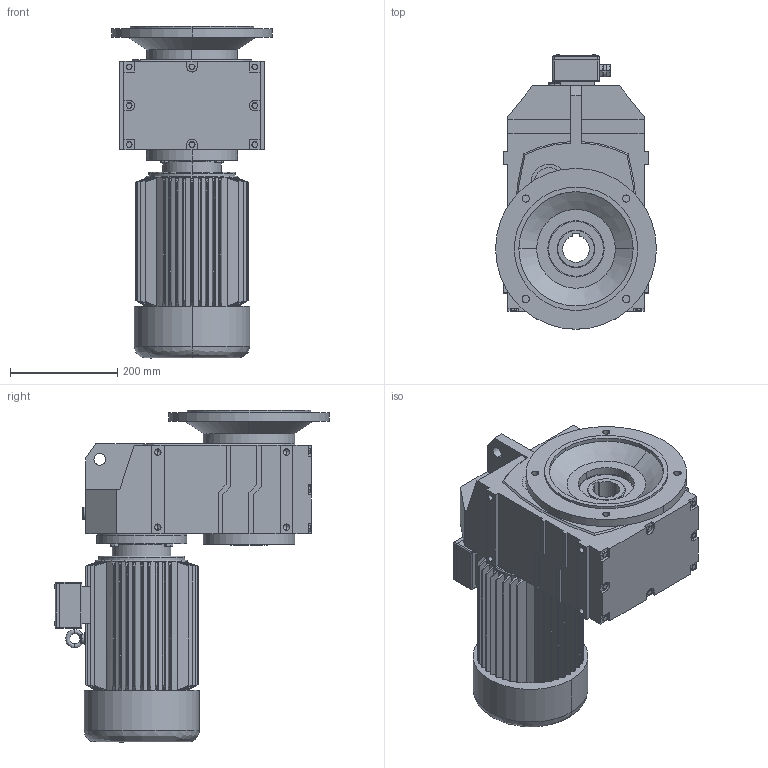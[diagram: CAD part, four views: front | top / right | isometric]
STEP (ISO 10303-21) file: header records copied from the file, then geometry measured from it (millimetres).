
FILE_DESCRIPTION (( 'STEP AP214' ), '1' );
FILE_NAME ('MFL77.step', '2020-06-27T08:06:33', ( '' ), ( '' ), 'SwSTEP 2.0', 'SolidWorks 2016', '' );
FILE_SCHEMA (( 'AUTOMOTIVE_DESIGN' ));
Length unit declared in the file: millimetre
Products named in the file (1): MFL77
Bounding box: 300 x 512.49 x 619 mm (x, y, z)
Volume: 29132098.3 mm3; surface area: 1308246.4 mm2
Topology: 3 solids, 3 shells, 1015 faces, 2574 edges, 1618 vertices
Faces by surface type: plane 531, cone 208, cylinder 167, bspline 109
Entity records: 44256 total; most frequent: CARTESIAN_POINT 9829, ORIENTED_EDGE 5100, DIRECTION 4341, EDGE_CURVE 2550, VERTEX_POINT 1618, AXIS2_PLACEMENT_3D 1492, VECTOR 1357, LINE 1357
